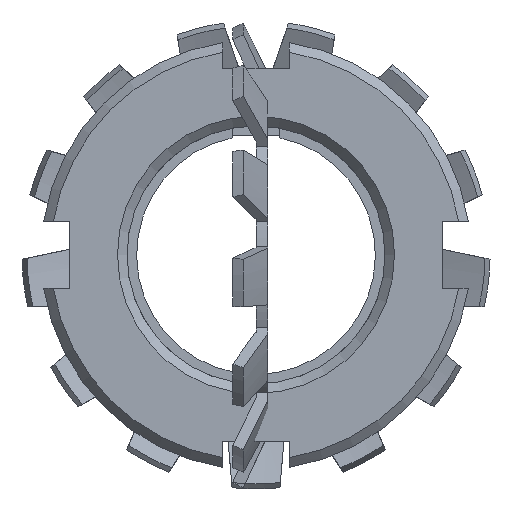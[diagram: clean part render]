
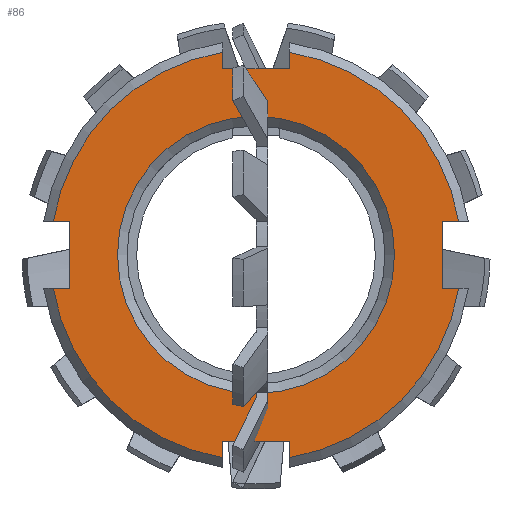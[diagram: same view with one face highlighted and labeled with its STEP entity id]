
A CAD part, front view. The second image highlights one B-rep face of the part: STEP entity #86.
In plain terms, the highlighted planar face has unit normal (0, -1, 0).
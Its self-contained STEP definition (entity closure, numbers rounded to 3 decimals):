
#86 = ADVANCED_FACE( '', ( #187, #188 ), #189, .F. );
#187 = FACE_BOUND( '', #317, .T. );
#188 = FACE_OUTER_BOUND( '', #318, .T. );
#189 = PLANE( '', #319 );
#317 = EDGE_LOOP( '', ( #541 ) );
#318 = EDGE_LOOP( '', ( #542, #543, #544, #545, #546, #547, #548, #549, #550, #551, #552, #553, #554, #555, #556, #557 ) );
#319 = AXIS2_PLACEMENT_3D( '', #558, #559, #560 );
#541 = ORIENTED_EDGE( '', *, *, #1027, .F. );
#542 = ORIENTED_EDGE( '', *, *, #1028, .F. );
#543 = ORIENTED_EDGE( '', *, *, #1018, .T. );
#544 = ORIENTED_EDGE( '', *, *, #1029, .T. );
#545 = ORIENTED_EDGE( '', *, *, #1030, .T. );
#546 = ORIENTED_EDGE( '', *, *, #1031, .F. );
#547 = ORIENTED_EDGE( '', *, *, #1032, .T. );
#548 = ORIENTED_EDGE( '', *, *, #1033, .T. );
#549 = ORIENTED_EDGE( '', *, *, #1034, .T. );
#550 = ORIENTED_EDGE( '', *, *, #1035, .F. );
#551 = ORIENTED_EDGE( '', *, *, #1036, .T. );
#552 = ORIENTED_EDGE( '', *, *, #1037, .T. );
#553 = ORIENTED_EDGE( '', *, *, #1038, .T. );
#554 = ORIENTED_EDGE( '', *, *, #1039, .F. );
#555 = ORIENTED_EDGE( '', *, *, #1040, .T. );
#556 = ORIENTED_EDGE( '', *, *, #1013, .T. );
#557 = ORIENTED_EDGE( '', *, *, #1041, .T. );
#558 = CARTESIAN_POINT( '', ( 0., -10.25, 22.5 ) );
#559 = DIRECTION( '', ( 0., 1., 0. ) );
#560 = DIRECTION( '', ( 0., 0., 1. ) );
#1013 = EDGE_CURVE( '', #1317, #1315, #1318, .T. );
#1018 = EDGE_CURVE( '', #1326, #1324, #1327, .T. );
#1027 = EDGE_CURVE( '', #1341, #1341, #1342, .T. );
#1028 = EDGE_CURVE( '', #1326, #1343, #1344, .T. );
#1029 = EDGE_CURVE( '', #1324, #1345, #1346, .T. );
#1030 = EDGE_CURVE( '', #1345, #1347, #1348, .F. );
#1031 = EDGE_CURVE( '', #1349, #1347, #1350, .T. );
#1032 = EDGE_CURVE( '', #1349, #1351, #1352, .T. );
#1033 = EDGE_CURVE( '', #1351, #1353, #1354, .T. );
#1034 = EDGE_CURVE( '', #1353, #1355, #1356, .F. );
#1035 = EDGE_CURVE( '', #1357, #1355, #1358, .T. );
#1036 = EDGE_CURVE( '', #1357, #1359, #1360, .T. );
#1037 = EDGE_CURVE( '', #1359, #1361, #1362, .T. );
#1038 = EDGE_CURVE( '', #1361, #1363, #1364, .F. );
#1039 = EDGE_CURVE( '', #1365, #1363, #1366, .T. );
#1040 = EDGE_CURVE( '', #1365, #1317, #1367, .T. );
#1041 = EDGE_CURVE( '', #1315, #1343, #1368, .F. );
#1315 = VERTEX_POINT( '', #2250 );
#1317 = VERTEX_POINT( '', #2255 );
#1318 = LINE( '', #2256, #2257 );
#1324 = VERTEX_POINT( '', #2267 );
#1326 = VERTEX_POINT( '', #2270 );
#1327 = LINE( '', #2271, #2272 );
#1341 = VERTEX_POINT( '', #2296 );
#1342 = CIRCLE( '', #2297, 14.5 );
#1343 = VERTEX_POINT( '', #2298 );
#1344 = LINE( '', #2299, #2300 );
#1345 = VERTEX_POINT( '', #2301 );
#1346 = LINE( '', #2302, #2303 );
#1347 = VERTEX_POINT( '', #2304 );
#1348 = CIRCLE( '', #2305, 21.5 );
#1349 = VERTEX_POINT( '', #2306 );
#1350 = LINE( '', #2307, #2308 );
#1351 = VERTEX_POINT( '', #2309 );
#1352 = LINE( '', #2310, #2311 );
#1353 = VERTEX_POINT( '', #2312 );
#1354 = LINE( '', #2313, #2314 );
#1355 = VERTEX_POINT( '', #2315 );
#1356 = CIRCLE( '', #2316, 21.5 );
#1357 = VERTEX_POINT( '', #2317 );
#1358 = LINE( '', #2318, #2319 );
#1359 = VERTEX_POINT( '', #2320 );
#1360 = LINE( '', #2321, #2322 );
#1361 = VERTEX_POINT( '', #2323 );
#1362 = LINE( '', #2324, #2325 );
#1363 = VERTEX_POINT( '', #2326 );
#1364 = CIRCLE( '', #2327, 21.5 );
#1365 = VERTEX_POINT( '', #2328 );
#1366 = LINE( '', #2329, #2330 );
#1367 = LINE( '', #2331, #2332 );
#1368 = CIRCLE( '', #2333, 21.5 );
#2250 = CARTESIAN_POINT( '', ( -3.5, -10.25, 21.213 ) );
#2255 = CARTESIAN_POINT( '', ( -3.5, -10.25, 19.5 ) );
#2256 = CARTESIAN_POINT( '', ( -3.5, -10.25, 22.5 ) );
#2257 = VECTOR( '', #2818, 1000. );
#2267 = CARTESIAN_POINT( '', ( -19.5, -10.25, -3.5 ) );
#2270 = CARTESIAN_POINT( '', ( -19.5, -10.25, 3.5 ) );
#2271 = CARTESIAN_POINT( '', ( -19.5, -10.25, 3.5 ) );
#2272 = VECTOR( '', #2821, 1000. );
#2296 = CARTESIAN_POINT( '', ( 0., -10.25, -14.5 ) );
#2297 = AXIS2_PLACEMENT_3D( '', #2831, #2832, #2833 );
#2298 = CARTESIAN_POINT( '', ( -21.213, -10.25, 3.5 ) );
#2299 = CARTESIAN_POINT( '', ( -22.5, -10.25, 3.5 ) );
#2300 = VECTOR( '', #2834, 1000. );
#2301 = CARTESIAN_POINT( '', ( -21.213, -10.25, -3.5 ) );
#2302 = CARTESIAN_POINT( '', ( -22.5, -10.25, -3.5 ) );
#2303 = VECTOR( '', #2835, 1000. );
#2304 = CARTESIAN_POINT( '', ( -3.5, -10.25, -21.213 ) );
#2305 = AXIS2_PLACEMENT_3D( '', #2836, #2837, #2838 );
#2306 = CARTESIAN_POINT( '', ( -3.5, -10.25, -19.5 ) );
#2307 = CARTESIAN_POINT( '', ( -3.5, -10.25, -22.5 ) );
#2308 = VECTOR( '', #2839, 1000. );
#2309 = CARTESIAN_POINT( '', ( 3.5, -10.25, -19.5 ) );
#2310 = CARTESIAN_POINT( '', ( -3.5, -10.25, -19.5 ) );
#2311 = VECTOR( '', #2840, 1000. );
#2312 = CARTESIAN_POINT( '', ( 3.5, -10.25, -21.213 ) );
#2313 = CARTESIAN_POINT( '', ( 3.5, -10.25, -22.5 ) );
#2314 = VECTOR( '', #2841, 1000. );
#2315 = CARTESIAN_POINT( '', ( 21.213, -10.25, -3.5 ) );
#2316 = AXIS2_PLACEMENT_3D( '', #2842, #2843, #2844 );
#2317 = CARTESIAN_POINT( '', ( 19.5, -10.25, -3.5 ) );
#2318 = CARTESIAN_POINT( '', ( 22.5, -10.25, -3.5 ) );
#2319 = VECTOR( '', #2845, 1000. );
#2320 = CARTESIAN_POINT( '', ( 19.5, -10.25, 3.5 ) );
#2321 = CARTESIAN_POINT( '', ( 19.5, -10.25, -3.5 ) );
#2322 = VECTOR( '', #2846, 1000. );
#2323 = CARTESIAN_POINT( '', ( 21.213, -10.25, 3.5 ) );
#2324 = CARTESIAN_POINT( '', ( 22.5, -10.25, 3.5 ) );
#2325 = VECTOR( '', #2847, 1000. );
#2326 = CARTESIAN_POINT( '', ( 3.5, -10.25, 21.213 ) );
#2327 = AXIS2_PLACEMENT_3D( '', #2848, #2849, #2850 );
#2328 = CARTESIAN_POINT( '', ( 3.5, -10.25, 19.5 ) );
#2329 = CARTESIAN_POINT( '', ( 3.5, -10.25, 22.5 ) );
#2330 = VECTOR( '', #2851, 1000. );
#2331 = CARTESIAN_POINT( '', ( 3.5, -10.25, 19.5 ) );
#2332 = VECTOR( '', #2852, 1000. );
#2333 = AXIS2_PLACEMENT_3D( '', #2853, #2854, #2855 );
#2818 = DIRECTION( '', ( 0., 0., 1. ) );
#2821 = DIRECTION( '', ( 0., 0., -1. ) );
#2831 = CARTESIAN_POINT( '', ( 0., -10.25, 0. ) );
#2832 = DIRECTION( '', ( 0., -1., 0. ) );
#2833 = DIRECTION( '', ( 0., 0., -1. ) );
#2834 = DIRECTION( '', ( -1., 0., 0. ) );
#2835 = DIRECTION( '', ( -1., 0., 0. ) );
#2836 = CARTESIAN_POINT( '', ( 0., -10.25, 0. ) );
#2837 = DIRECTION( '', ( 0., 1., 0. ) );
#2838 = DIRECTION( '', ( 0., 0., 1. ) );
#2839 = DIRECTION( '', ( 0., 0., -1. ) );
#2840 = DIRECTION( '', ( 1., 0., 0. ) );
#2841 = DIRECTION( '', ( 0., 0., -1. ) );
#2842 = CARTESIAN_POINT( '', ( 0., -10.25, 0. ) );
#2843 = DIRECTION( '', ( 0., 1., 0. ) );
#2844 = DIRECTION( '', ( 0., 0., 1. ) );
#2845 = DIRECTION( '', ( 1., 0., 0. ) );
#2846 = DIRECTION( '', ( 0., 0., 1. ) );
#2847 = DIRECTION( '', ( 1., 0., 0. ) );
#2848 = CARTESIAN_POINT( '', ( 0., -10.25, 0. ) );
#2849 = DIRECTION( '', ( 0., 1., 0. ) );
#2850 = DIRECTION( '', ( 0., 0., 1. ) );
#2851 = DIRECTION( '', ( 0., 0., 1. ) );
#2852 = DIRECTION( '', ( -1., 0., 0. ) );
#2853 = CARTESIAN_POINT( '', ( 0., -10.25, 0. ) );
#2854 = DIRECTION( '', ( 0., 1., 0. ) );
#2855 = DIRECTION( '', ( 0., 0., 1. ) );
